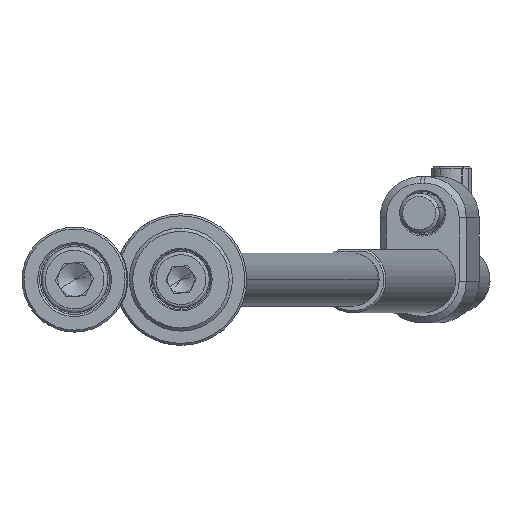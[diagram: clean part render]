
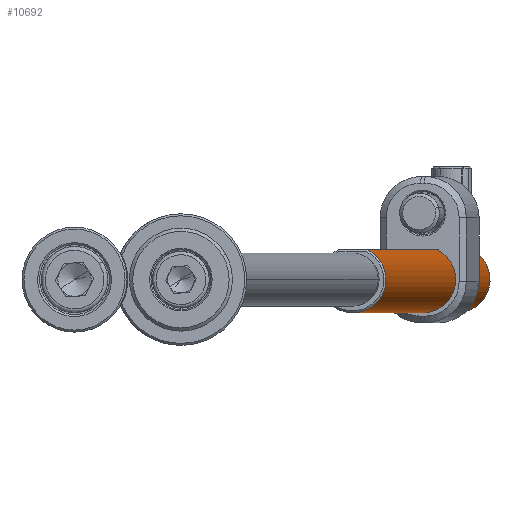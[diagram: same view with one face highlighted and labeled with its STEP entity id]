
A CAD part, front view. The second image highlights one B-rep face of the part: STEP entity #10692.
In plain terms, the highlighted cylindrical face has radius 5 mm (diameter 10 mm), a partial arc.
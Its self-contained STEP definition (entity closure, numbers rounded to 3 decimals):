
#69 = CARTESIAN_POINT ( 'NONE',  ( 4.108, -2.851, 10.952 ) ) ;
#214 = CARTESIAN_POINT ( 'NONE',  ( 4.376, -2.421, 11.781 ) ) ;
#495 = EDGE_LOOP ( 'NONE', ( #9487, #12471, #974, #7653, #2749, #9445 ) ) ;
#582 = VERTEX_POINT ( 'NONE', #2383 ) ;
#648 = CARTESIAN_POINT ( 'NONE',  ( -5., 0., 200. ) ) ;
#682 = B_SPLINE_CURVE_WITH_KNOTS ( 'NONE', 3,
 ( #11127, #10060, #214, #4595, #5749, #69, #12064, #13131, #6612, #1165, #6819, #13346, #11209, #10189, #1294, #7839, #5530, #4447 ),
 .UNSPECIFIED., .F., .F.,
 ( 4, 2, 2, 2, 2, 2, 2, 2, 4 ),
 ( 0., 0.001, 0.001, 0.002, 0.002, 0.003, 0.003, 0.004, 0.005 ),
 .UNSPECIFIED. ) ;
#974 = ORIENTED_EDGE ( 'NONE', *, *, #3289, .T. ) ;
#1165 = CARTESIAN_POINT ( 'NONE',  ( 4., -3., 9.809 ) ) ;
#1294 = CARTESIAN_POINT ( 'NONE',  ( 4.258, -2.623, 8.532 ) ) ;
#2383 = CARTESIAN_POINT ( 'NONE',  ( 4.5, -2.179, 0.3 ) ) ;
#2749 = ORIENTED_EDGE ( 'NONE', *, *, #3112, .F. ) ;
#2968 = CARTESIAN_POINT ( 'NONE',  ( 0., 0., 200. ) ) ;
#3059 = DIRECTION ( 'NONE',  ( 0., 0., -1. ) ) ;
#3112 = EDGE_CURVE ( 'NONE', #12382, #7204, #682, .T. ) ;
#3289 = EDGE_CURVE ( 'NONE', #12239, #582, #7044, .T. ) ;
#3421 = DIRECTION ( 'NONE',  ( 1., 0., 0. ) ) ;
#3756 = DIRECTION ( 'NONE',  ( 0., 0., -1. ) ) ;
#4090 = CARTESIAN_POINT ( 'NONE',  ( 4.5, -2.179, 200. ) ) ;
#4109 = VECTOR ( 'NONE', #12698, 1000. ) ;
#4428 = VERTEX_POINT ( 'NONE', #6321 ) ;
#4447 = CARTESIAN_POINT ( 'NONE',  ( 4.5, -2.179, 7.938 ) ) ;
#4454 = CARTESIAN_POINT ( 'NONE',  ( -5., 0., 199.7 ) ) ;
#4595 = CARTESIAN_POINT ( 'NONE',  ( 4.259, -2.621, 11.47 ) ) ;
#5530 = CARTESIAN_POINT ( 'NONE',  ( 4.438, -2.308, 8.074 ) ) ;
#5749 = CARTESIAN_POINT ( 'NONE',  ( 4.203, -2.709, 11.303 ) ) ;
#5841 = CARTESIAN_POINT ( 'NONE',  ( 0., 0., 199.7 ) ) ;
#6154 = CIRCLE ( 'NONE', #11232, 5. ) ;
#6309 = DIRECTION ( 'NONE',  ( 0., 0., 1. ) ) ;
#6321 = CARTESIAN_POINT ( 'NONE',  ( 4.5, -2.179, 199.7 ) ) ;
#6462 = EDGE_CURVE ( 'NONE', #7832, #12239, #11559, .T. ) ;
#6612 = CARTESIAN_POINT ( 'NONE',  ( 4., -3., 10.198 ) ) ;
#6819 = CARTESIAN_POINT ( 'NONE',  ( 4.014, -2.982, 9.617 ) ) ;
#7044 = CIRCLE ( 'NONE', #12087, 5. ) ;
#7204 = VERTEX_POINT ( 'NONE', #10520 ) ;
#7359 = DIRECTION ( 'NONE',  ( 0., 0., -1. ) ) ;
#7568 = EDGE_CURVE ( 'NONE', #4428, #7832, #6154, .T. ) ;
#7653 = ORIENTED_EDGE ( 'NONE', *, *, #12063, .F. ) ;
#7832 = VERTEX_POINT ( 'NONE', #4454 ) ;
#7839 = CARTESIAN_POINT ( 'NONE',  ( 4.376, -2.422, 8.22 ) ) ;
#7949 = CARTESIAN_POINT ( 'NONE',  ( -5., 0., 0.3 ) ) ;
#9348 = DIRECTION ( 'NONE',  ( 1., 0., 0. ) ) ;
#9421 = LINE ( 'NONE', #4090, #12718 ) ;
#9445 = ORIENTED_EDGE ( 'NONE', *, *, #11047, .F. ) ;
#9487 = ORIENTED_EDGE ( 'NONE', *, *, #7568, .T. ) ;
#10060 = CARTESIAN_POINT ( 'NONE',  ( 4.438, -2.307, 11.926 ) ) ;
#10189 = CARTESIAN_POINT ( 'NONE',  ( 4.202, -2.711, 8.701 ) ) ;
#10427 = DIRECTION ( 'NONE',  ( 0., 0., -1. ) ) ;
#10464 = VECTOR ( 'NONE', #3059, 1000. ) ;
#10520 = CARTESIAN_POINT ( 'NONE',  ( 4.5, -2.179, 7.938 ) ) ;
#10654 = DIRECTION ( 'NONE',  ( -1., 0., 0. ) ) ;
#10692 = ADVANCED_FACE ( 'NONE', ( #12803 ), #13798, .T. ) ;
#11047 = EDGE_CURVE ( 'NONE', #4428, #12382, #9421, .T. ) ;
#11127 = CARTESIAN_POINT ( 'NONE',  ( 4.5, -2.179, 12.062 ) ) ;
#11209 = CARTESIAN_POINT ( 'NONE',  ( 4.107, -2.852, 9.051 ) ) ;
#11232 = AXIS2_PLACEMENT_3D ( 'NONE', #5841, #3756, #9348 ) ;
#11343 = AXIS2_PLACEMENT_3D ( 'NONE', #2968, #7359, #10654 ) ;
#11559 = LINE ( 'NONE', #648, #4109 ) ;
#11825 = CARTESIAN_POINT ( 'NONE',  ( 4.5, -2.179, 200. ) ) ;
#11897 = LINE ( 'NONE', #11825, #10464 ) ;
#12063 = EDGE_CURVE ( 'NONE', #7204, #582, #11897, .T. ) ;
#12064 = CARTESIAN_POINT ( 'NONE',  ( 4.069, -2.906, 10.771 ) ) ;
#12087 = AXIS2_PLACEMENT_3D ( 'NONE', #13901, #6309, #3421 ) ;
#12152 = CARTESIAN_POINT ( 'NONE',  ( 4.5, -2.179, 12.062 ) ) ;
#12239 = VERTEX_POINT ( 'NONE', #7949 ) ;
#12382 = VERTEX_POINT ( 'NONE', #12152 ) ;
#12471 = ORIENTED_EDGE ( 'NONE', *, *, #6462, .T. ) ;
#12698 = DIRECTION ( 'NONE',  ( 0., 0., -1. ) ) ;
#12718 = VECTOR ( 'NONE', #10427, 1000. ) ;
#12803 = FACE_OUTER_BOUND ( 'NONE', #495, .T. ) ;
#13131 = CARTESIAN_POINT ( 'NONE',  ( 4.015, -2.98, 10.396 ) ) ;
#13346 = CARTESIAN_POINT ( 'NONE',  ( 4.068, -2.908, 9.236 ) ) ;
#13798 = CYLINDRICAL_SURFACE ( 'NONE', #11343, 5. ) ;
#13901 = CARTESIAN_POINT ( 'NONE',  ( 0., 0., 0.3 ) ) ;
